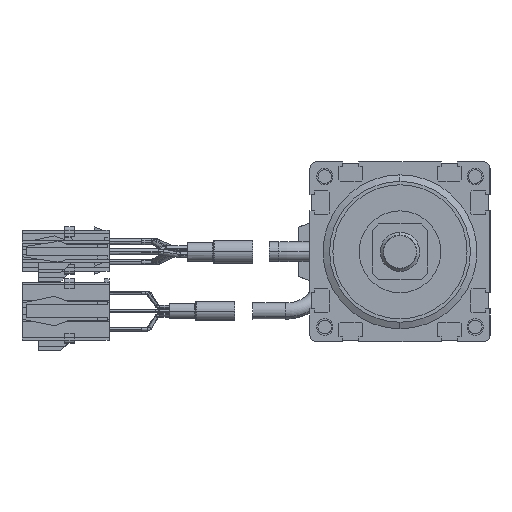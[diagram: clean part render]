
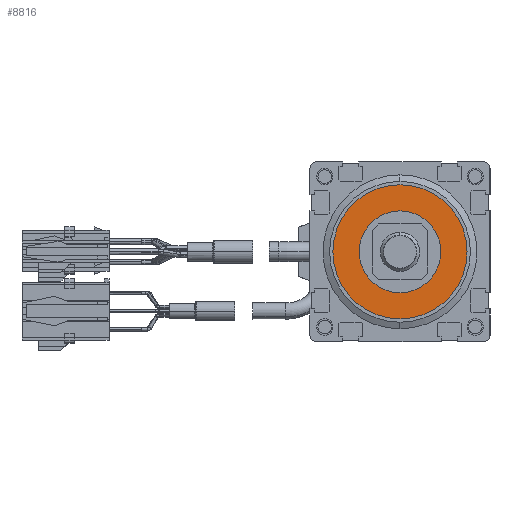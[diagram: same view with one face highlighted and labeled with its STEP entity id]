
A CAD part, left-side view. The second image highlights one B-rep face of the part: STEP entity #8816.
In plain terms, the highlighted planar face has unit normal (-1, 0, 0).
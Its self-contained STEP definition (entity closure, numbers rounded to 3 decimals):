
#2322=CARTESIAN_POINT('',(-341.,0.,0.));
#2323=DIRECTION('',(1.,0.,0.));
#2324=DIRECTION('',(0.,1.,0.));
#2325=AXIS2_PLACEMENT_3D('',#2322,#2323,#2324);
#2327=CARTESIAN_POINT('',(-341.,0.,0.));
#2328=DIRECTION('',(1.,0.,0.));
#2329=DIRECTION('',(0.,-1.,0.));
#2330=AXIS2_PLACEMENT_3D('',#2327,#2328,#2329);
#2332=CARTESIAN_POINT('',(-341.,0.,0.));
#2333=DIRECTION('',(-1.,0.,0.));
#2334=DIRECTION('',(0.,0.,1.));
#2335=AXIS2_PLACEMENT_3D('',#2332,#2333,#2334);
#2337=CARTESIAN_POINT('',(-341.,0.,0.));
#2338=DIRECTION('',(-1.,0.,0.));
#2339=DIRECTION('',(0.,0.,-1.));
#2340=AXIS2_PLACEMENT_3D('',#2337,#2338,#2339);
#4281=CARTESIAN_POINT('',(-341.,20.5,0.));
#4282=VERTEX_POINT('',#4281);
#4283=CARTESIAN_POINT('',(-341.,-20.5,0.));
#4284=VERTEX_POINT('',#4283);
#5447=CARTESIAN_POINT('',(-341.,0.,12.5));
#5448=CARTESIAN_POINT('',(-341.,0.,-12.5));
#5449=VERTEX_POINT('',#5447);
#5450=VERTEX_POINT('',#5448);
#8801=CARTESIAN_POINT('',(-341.,0.,0.));
#8802=DIRECTION('',(1.,0.,0.));
#8803=DIRECTION('',(0.,1.,0.));
#8804=AXIS2_PLACEMENT_3D('',#8801,#8802,#8803);
#8805=PLANE('',#8804);
#8806=ORIENTED_EDGE('',*,*,#8781,.T.);
#8807=ORIENTED_EDGE('',*,*,#8795,.T.);
#8808=EDGE_LOOP('',(#8806,#8807));
#8809=FACE_OUTER_BOUND('',#8808,.F.);
#8811=ORIENTED_EDGE('',*,*,#8810,.T.);
#8813=ORIENTED_EDGE('',*,*,#8812,.T.);
#8814=EDGE_LOOP('',(#8811,#8813));
#8815=FACE_BOUND('',#8814,.F.);
#8816=ADVANCED_FACE('',(#8809,#8815),#8805,.F.);
#2326=CIRCLE('',#2325,20.5);
#2331=CIRCLE('',#2330,20.5);
#2336=CIRCLE('',#2335,12.5);
#2341=CIRCLE('',#2340,12.5);
#8781=EDGE_CURVE('',#4282,#4284,#2326,.T.);
#8795=EDGE_CURVE('',#4284,#4282,#2331,.T.);
#8810=EDGE_CURVE('',#5449,#5450,#2336,.T.);
#8812=EDGE_CURVE('',#5450,#5449,#2341,.T.);
